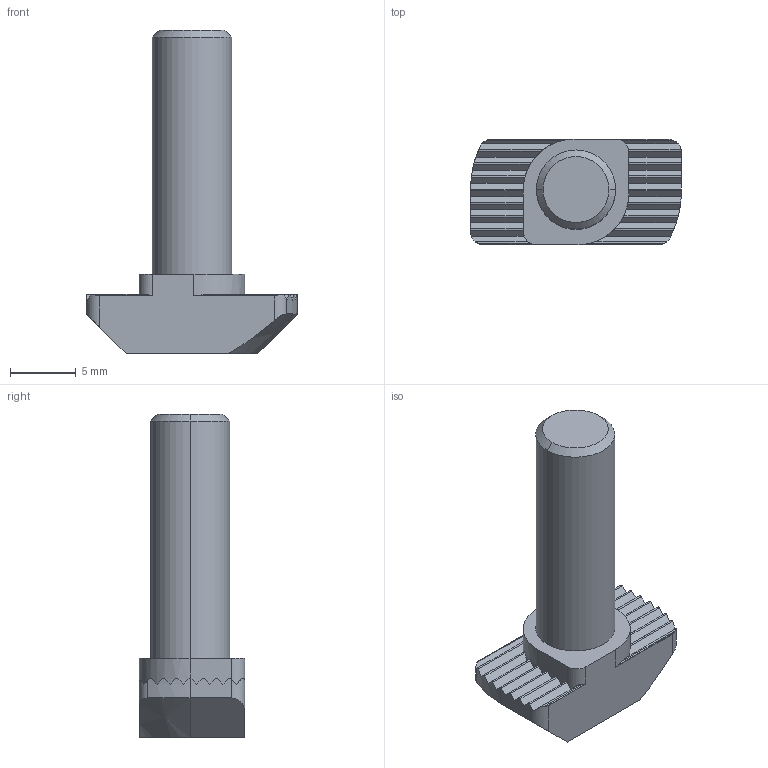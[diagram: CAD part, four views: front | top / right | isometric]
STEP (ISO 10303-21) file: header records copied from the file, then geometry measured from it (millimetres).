
FILE_DESCRIPTION (( 'STEP AP203' ), '1' );
FILE_NAME ('096hk0815m0620.STEP', '2013-05-17T07:41:27', ( 'USER' ), ( '' ), 'SwSTEP 2.0', 'SolidWorks 2012', '' );
FILE_SCHEMA (( 'CONFIG_CONTROL_DESIGN' ));
Length unit declared in the file: millimetre
Products named in the file (1): 096hk0815m0620
Bounding box: 16 x 8 x 24.5 mm (x, y, z)
Volume: 1080.5 mm3; surface area: 813.9 mm2
Topology: 1 solids, 1 shells, 81 faces, 230 edges, 152 vertices
Faces by surface type: plane 45, cylinder 32, cone 4
Entity records: 2950 total; most frequent: CARTESIAN_POINT 953, ORIENTED_EDGE 460, DIRECTION 339, EDGE_CURVE 230, VERTEX_POINT 152, LINE 119, VECTOR 119, AXIS2_PLACEMENT_3D 110
